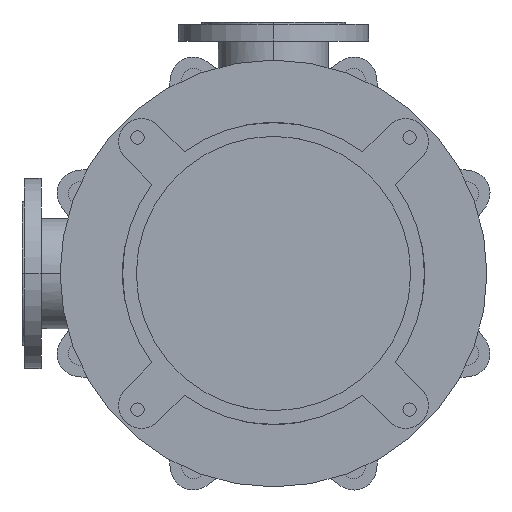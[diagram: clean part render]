
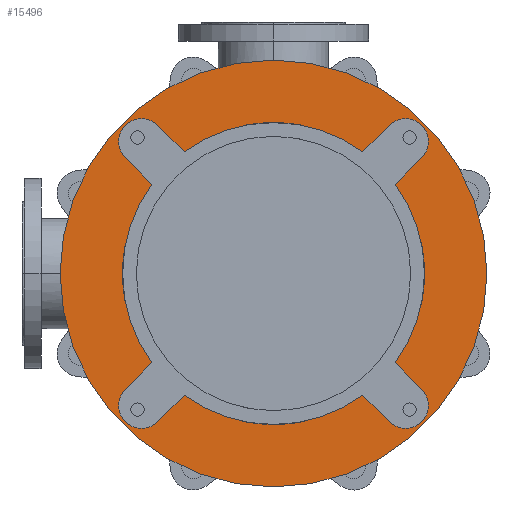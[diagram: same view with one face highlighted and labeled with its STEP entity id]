
A CAD part, front view. The second image highlights one B-rep face of the part: STEP entity #15496.
In plain terms, the highlighted planar face has unit normal (0, -1, 0).
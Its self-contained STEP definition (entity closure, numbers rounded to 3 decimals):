
#4317=CARTESIAN_POINT('',(0.,-25.,0.));
#4318=DIRECTION('',(0.,1.,0.));
#4319=DIRECTION('',(0.592,0.,-0.806));
#4320=AXIS2_PLACEMENT_3D('',#4317,#4318,#4319);
#4335=CARTESIAN_POINT('',(0.,-25.,0.));
#4336=DIRECTION('',(0.,1.,0.));
#4337=DIRECTION('',(0.806,0.,0.592));
#4338=AXIS2_PLACEMENT_3D('',#4335,#4336,#4337);
#4362=CARTESIAN_POINT('',(0.,-25.,0.));
#4363=DIRECTION('',(0.,1.,0.));
#4364=DIRECTION('',(-0.806,0.,-0.592));
#4365=AXIS2_PLACEMENT_3D('',#4362,#4363,#4364);
#4371=CARTESIAN_POINT('',(0.,-25.,0.));
#4372=DIRECTION('',(0.,1.,0.));
#4373=DIRECTION('',(-0.592,0.,0.806));
#4374=AXIS2_PLACEMENT_3D('',#4371,#4372,#4373);
#4549=CARTESIAN_POINT('',(0.,-25.,0.));
#4550=DIRECTION('',(0.,-1.,0.));
#4551=DIRECTION('',(-1.,0.,0.));
#4552=AXIS2_PLACEMENT_3D('',#4549,#4550,#4551);
#4554=CARTESIAN_POINT('',(0.,-25.,0.));
#4555=DIRECTION('',(0.,1.,0.));
#4556=DIRECTION('',(-1.,0.,0.));
#4557=AXIS2_PLACEMENT_3D('',#4554,#4555,#4556);
#4559=CARTESIAN_POINT('',(-173.241,-25.,173.241));
#4560=DIRECTION('',(0.,-1.,0.));
#4561=DIRECTION('',(0.707,0.,0.707));
#4562=AXIS2_PLACEMENT_3D('',#4559,#4560,#4561);
#4564=DIRECTION('',(0.707,0.,-0.707));
#4565=VECTOR('',#4564,49.286);
#4566=CARTESIAN_POINT('',(-194.454,-25.,152.028));
#4567=LINE('',#4566,#4565);
#4568=DIRECTION('',(-0.707,0.,-0.707));
#4569=VECTOR('',#4568,49.286);
#4570=CARTESIAN_POINT('',(-159.604,-25.,-117.178));
#4571=LINE('',#4570,#4569);
#4572=CARTESIAN_POINT('',(-173.241,-25.,-173.241));
#4573=DIRECTION('',(0.,-1.,0.));
#4574=DIRECTION('',(-0.707,0.,0.707));
#4575=AXIS2_PLACEMENT_3D('',#4572,#4573,#4574);
#4577=DIRECTION('',(0.707,0.,0.707));
#4578=VECTOR('',#4577,49.286);
#4579=CARTESIAN_POINT('',(-152.028,-25.,-194.454));
#4580=LINE('',#4579,#4578);
#4581=DIRECTION('',(0.707,0.,-0.707));
#4582=VECTOR('',#4581,49.286);
#4583=CARTESIAN_POINT('',(117.178,-25.,-159.604));
#4584=LINE('',#4583,#4582);
#4585=CARTESIAN_POINT('',(173.241,-25.,-173.241));
#4586=DIRECTION('',(0.,-1.,0.));
#4587=DIRECTION('',(-0.707,0.,-0.707));
#4588=AXIS2_PLACEMENT_3D('',#4585,#4586,#4587);
#4590=DIRECTION('',(-0.707,0.,0.707));
#4591=VECTOR('',#4590,49.286);
#4592=CARTESIAN_POINT('',(194.454,-25.,-152.028));
#4593=LINE('',#4592,#4591);
#4594=DIRECTION('',(0.707,0.,0.707));
#4595=VECTOR('',#4594,49.286);
#4596=CARTESIAN_POINT('',(159.604,-25.,117.178));
#4597=LINE('',#4596,#4595);
#4598=CARTESIAN_POINT('',(173.241,-25.,173.241));
#4599=DIRECTION('',(0.,-1.,0.));
#4600=DIRECTION('',(0.707,0.,-0.707));
#4601=AXIS2_PLACEMENT_3D('',#4598,#4599,#4600);
#4603=DIRECTION('',(-0.707,0.,-0.707));
#4604=VECTOR('',#4603,49.286);
#4605=CARTESIAN_POINT('',(152.028,-25.,194.454));
#4606=LINE('',#4605,#4604);
#4607=DIRECTION('',(-0.707,0.,0.707));
#4608=VECTOR('',#4607,49.286);
#4609=CARTESIAN_POINT('',(-117.178,-25.,159.604));
#4610=LINE('',#4609,#4608);
#8380=CARTESIAN_POINT('',(-280.,-25.,0.));
#8381=CARTESIAN_POINT('',(280.,-25.,0.));
#8382=VERTEX_POINT('',#8380);
#8383=VERTEX_POINT('',#8381);
#8404=CARTESIAN_POINT('',(-194.454,-25.,-152.028));
#8405=CARTESIAN_POINT('',(-152.028,-25.,-194.454));
#8406=VERTEX_POINT('',#8404);
#8407=VERTEX_POINT('',#8405);
#8408=CARTESIAN_POINT('',(-117.178,-25.,-159.604));
#8409=VERTEX_POINT('',#8408);
#8410=CARTESIAN_POINT('',(-159.604,-25.,-117.178));
#8411=VERTEX_POINT('',#8410);
#8420=CARTESIAN_POINT('',(152.028,-25.,-194.454));
#8421=CARTESIAN_POINT('',(194.454,-25.,-152.028));
#8422=VERTEX_POINT('',#8420);
#8423=VERTEX_POINT('',#8421);
#8424=CARTESIAN_POINT('',(159.604,-25.,-117.178));
#8425=VERTEX_POINT('',#8424);
#8426=CARTESIAN_POINT('',(117.178,-25.,-159.604));
#8427=VERTEX_POINT('',#8426);
#8436=CARTESIAN_POINT('',(194.454,-25.,152.028));
#8437=CARTESIAN_POINT('',(152.028,-25.,194.454));
#8438=VERTEX_POINT('',#8436);
#8439=VERTEX_POINT('',#8437);
#8440=CARTESIAN_POINT('',(117.178,-25.,159.604));
#8441=VERTEX_POINT('',#8440);
#8442=CARTESIAN_POINT('',(159.604,-25.,117.178));
#8443=VERTEX_POINT('',#8442);
#8452=CARTESIAN_POINT('',(-152.028,-25.,194.454));
#8453=CARTESIAN_POINT('',(-194.454,-25.,152.028));
#8454=VERTEX_POINT('',#8452);
#8455=VERTEX_POINT('',#8453);
#8456=CARTESIAN_POINT('',(-159.604,-25.,117.178));
#8457=VERTEX_POINT('',#8456);
#8458=CARTESIAN_POINT('',(-117.178,-25.,159.604));
#8459=VERTEX_POINT('',#8458);
#15456=CARTESIAN_POINT('',(0.,-25.,0.));
#15457=DIRECTION('',(0.,-1.,0.));
#15458=DIRECTION('',(-1.,0.,0.));
#15459=AXIS2_PLACEMENT_3D('',#15456,#15457,#15458);
#15460=PLANE('',#15459);
#15462=ORIENTED_EDGE('',*,*,#15461,.F.);
#15464=ORIENTED_EDGE('',*,*,#15463,.T.);
#15465=EDGE_LOOP('',(#15462,#15464));
#15466=FACE_OUTER_BOUND('',#15465,.F.);
#15468=ORIENTED_EDGE('',*,*,#15467,.T.);
#15470=ORIENTED_EDGE('',*,*,#15469,.T.);
#15471=ORIENTED_EDGE('',*,*,#15409,.F.);
#15473=ORIENTED_EDGE('',*,*,#15472,.T.);
#15475=ORIENTED_EDGE('',*,*,#15474,.T.);
#15477=ORIENTED_EDGE('',*,*,#15476,.T.);
#15478=ORIENTED_EDGE('',*,*,#15362,.F.);
#15479=ORIENTED_EDGE('',*,*,#15446,.T.);
#15481=ORIENTED_EDGE('',*,*,#15480,.T.);
#15483=ORIENTED_EDGE('',*,*,#15482,.T.);
#15484=ORIENTED_EDGE('',*,*,#15383,.F.);
#15486=ORIENTED_EDGE('',*,*,#15485,.T.);
#15488=ORIENTED_EDGE('',*,*,#15487,.T.);
#15490=ORIENTED_EDGE('',*,*,#15489,.T.);
#15491=ORIENTED_EDGE('',*,*,#15427,.F.);
#15493=ORIENTED_EDGE('',*,*,#15492,.T.);
#15494=EDGE_LOOP('',(#15468,#15470,#15471,#15473,#15475,#15477,#15478,#15479,
#15481,#15483,#15484,#15486,#15488,#15490,#15491,#15493));
#15495=FACE_BOUND('',#15494,.F.);
#15496=ADVANCED_FACE('',(#15466,#15495),#15460,.T.);
#4321=CIRCLE('',#4320,198.);
#4339=CIRCLE('',#4338,198.);
#4366=CIRCLE('',#4365,198.);
#4375=CIRCLE('',#4374,198.);
#4553=CIRCLE('',#4552,280.);
#4558=CIRCLE('',#4557,280.);
#4563=CIRCLE('',#4562,30.);
#4576=CIRCLE('',#4575,30.);
#4589=CIRCLE('',#4588,30.);
#4602=CIRCLE('',#4601,30.);
#15362=EDGE_CURVE('',#8427,#8409,#4321,.T.);
#15383=EDGE_CURVE('',#8443,#8425,#4339,.T.);
#15409=EDGE_CURVE('',#8411,#8457,#4366,.T.);
#15427=EDGE_CURVE('',#8459,#8441,#4375,.T.);
#15446=EDGE_CURVE('',#8427,#8422,#4584,.T.);
#15461=EDGE_CURVE('',#8382,#8383,#4553,.T.);
#15463=EDGE_CURVE('',#8382,#8383,#4558,.T.);
#15467=EDGE_CURVE('',#8454,#8455,#4563,.T.);
#15469=EDGE_CURVE('',#8455,#8457,#4567,.T.);
#15472=EDGE_CURVE('',#8411,#8406,#4571,.T.);
#15474=EDGE_CURVE('',#8406,#8407,#4576,.T.);
#15476=EDGE_CURVE('',#8407,#8409,#4580,.T.);
#15480=EDGE_CURVE('',#8422,#8423,#4589,.T.);
#15482=EDGE_CURVE('',#8423,#8425,#4593,.T.);
#15485=EDGE_CURVE('',#8443,#8438,#4597,.T.);
#15487=EDGE_CURVE('',#8438,#8439,#4602,.T.);
#15489=EDGE_CURVE('',#8439,#8441,#4606,.T.);
#15492=EDGE_CURVE('',#8459,#8454,#4610,.T.);
